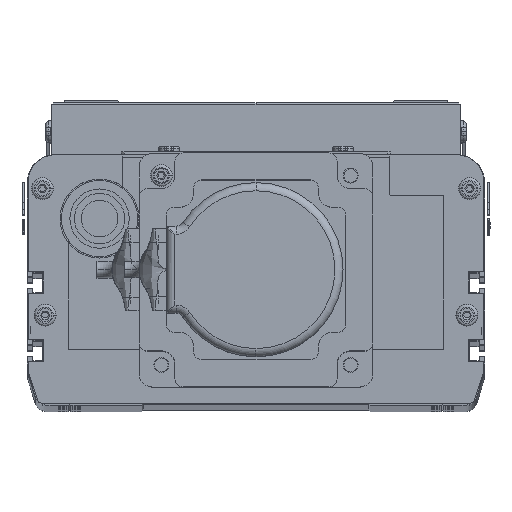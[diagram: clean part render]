
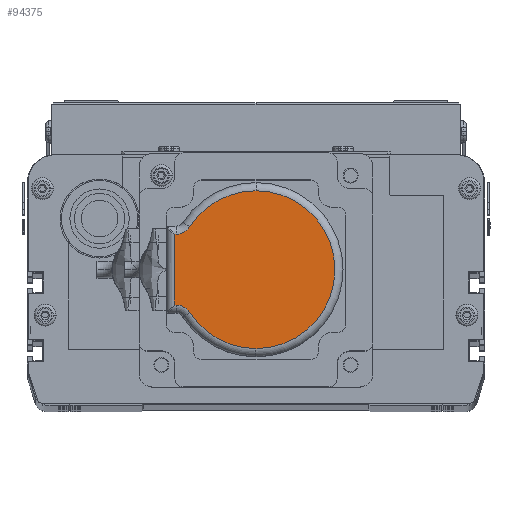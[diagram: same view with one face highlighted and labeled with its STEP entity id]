
A CAD part, top view. The second image highlights one B-rep face of the part: STEP entity #94375.
In plain terms, the highlighted planar face has unit normal (0, 0, 1).
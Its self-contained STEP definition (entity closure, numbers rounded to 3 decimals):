
#29240 = CARTESIAN_POINT ( 'NONE',  ( 48.743, 57.355, 26. ) ) ;
#29741 = CARTESIAN_POINT ( 'NONE',  ( 4., 33., 26. ) ) ;
#29904 = CIRCLE ( 'NONE', #30002, 6. ) ;
#29912 = CARTESIAN_POINT ( 'NONE',  ( 14., 62.394, 26. ) ) ;
#29993 = DIRECTION ( 'NONE',  ( 1., 0., 0. ) ) ;
#29994 = DIRECTION ( 'NONE',  ( 0., 0., 1. ) ) ;
#29996 = CARTESIAN_POINT ( 'NONE',  ( 20., 62.394, 26. ) ) ;
#30002 = AXIS2_PLACEMENT_3D ( 'NONE', #29912, #29994, #29993 ) ;
#30111 = DIRECTION ( 'NONE',  ( 0., 1., 0. ) ) ;
#30112 = CARTESIAN_POINT ( 'NONE',  ( 46., 33., 26. ) ) ;
#30113 = LINE ( 'NONE', #30112, #30127 ) ;
#30127 = VECTOR ( 'NONE', #30111, 1000. ) ;
#30183 = CARTESIAN_POINT ( 'NONE',  ( 62., 33., 26. ) ) ;
#30185 = CARTESIAN_POINT ( 'NONE',  ( 17.257, 57.355, 26. ) ) ;
#30463 = DIRECTION ( 'NONE',  ( 0., -1., 0. ) ) ;
#30464 = VECTOR ( 'NONE', #30463, 1000. ) ;
#30465 = CARTESIAN_POINT ( 'NONE',  ( 20., 33., 26. ) ) ;
#30466 = LINE ( 'NONE', #30465, #30464 ) ;
#30539 = DIRECTION ( 'NONE',  ( -1., 0., 0. ) ) ;
#30540 = VECTOR ( 'NONE', #30539, 1000. ) ;
#30573 = CARTESIAN_POINT ( 'NONE',  ( 17.5, 63., 26. ) ) ;
#30639 = LINE ( 'NONE', #30573, #30540 ) ;
#30717 = DIRECTION ( 'NONE',  ( 1., 0., 0. ) ) ;
#30718 = DIRECTION ( 'NONE',  ( 0., 0., 1. ) ) ;
#30724 = AXIS2_PLACEMENT_3D ( 'NONE', #30734, #30718, #30717 ) ;
#30730 = CIRCLE ( 'NONE', #30724, 29. ) ;
#30733 = CARTESIAN_POINT ( 'NONE',  ( 46., 63., 26. ) ) ;
#30734 = CARTESIAN_POINT ( 'NONE',  ( 33., 33., 26. ) ) ;
#30830 = AXIS2_PLACEMENT_3D ( 'NONE', #30921, #30920, #30919 ) ;
#30845 = CIRCLE ( 'NONE', #30917, 6. ) ;
#30870 = DIRECTION ( 'NONE',  ( 1., 0., 0. ) ) ;
#30871 = DIRECTION ( 'NONE',  ( 0., 0., 1. ) ) ;
#30872 = CARTESIAN_POINT ( 'NONE',  ( 33., 33., 26. ) ) ;
#30873 = AXIS2_PLACEMENT_3D ( 'NONE', #30872, #30871, #30870 ) ;
#30881 = DIRECTION ( 'NONE',  ( 1., 0., 0. ) ) ;
#30882 = DIRECTION ( 'NONE',  ( 0., 0., 1. ) ) ;
#30884 = CARTESIAN_POINT ( 'NONE',  ( 33., 33., 26. ) ) ;
#30885 = AXIS2_PLACEMENT_3D ( 'NONE', #30884, #30882, #30881 ) ;
#30888 = CARTESIAN_POINT ( 'NONE',  ( 20., 63., 26. ) ) ;
#30892 = PLANE ( 'NONE',  #30873 ) ;
#30909 = CIRCLE ( 'NONE', #30885, 29. ) ;
#30915 = DIRECTION ( 'NONE',  ( 1., 0., 0. ) ) ;
#30916 = DIRECTION ( 'NONE',  ( 0., 0., 1. ) ) ;
#30917 = AXIS2_PLACEMENT_3D ( 'NONE', #30924, #30916, #30915 ) ;
#30919 = DIRECTION ( 'NONE',  ( 1., 0., 0. ) ) ;
#30920 = DIRECTION ( 'NONE',  ( 0., 0., 1. ) ) ;
#30921 = CARTESIAN_POINT ( 'NONE',  ( 33., 33., 26. ) ) ;
#30922 = FACE_OUTER_BOUND ( 'NONE', #93910, .T. ) ;
#30924 = CARTESIAN_POINT ( 'NONE',  ( 52., 62.394, 26. ) ) ;
#30925 = CIRCLE ( 'NONE', #30830, 29. ) ;
#30926 = CARTESIAN_POINT ( 'NONE',  ( 46., 62.394, 26. ) ) ;
#93751 = ORIENTED_EDGE ( 'NONE', *, *, #94264, .T. ) ;
#93755 = VERTEX_POINT ( 'NONE', #29240 ) ;
#93762 = ORIENTED_EDGE ( 'NONE', *, *, #94242, .T. ) ;
#93765 = ORIENTED_EDGE ( 'NONE', *, *, #94363, .F. ) ;
#93899 = ORIENTED_EDGE ( 'NONE', *, *, #94241, .T. ) ;
#93906 = VERTEX_POINT ( 'NONE', #29741 ) ;
#93910 = EDGE_LOOP ( 'NONE', ( #94377, #93751, #94358, #94221, #93765, #93762, #94145, #93899 ) ) ;
#94145 = ORIENTED_EDGE ( 'NONE', *, *, #94244, .T. ) ;
#94146 = EDGE_CURVE ( 'NONE', #94162, #94147, #29904, .T. ) ;
#94147 = VERTEX_POINT ( 'NONE', #29996 ) ;
#94158 = VERTEX_POINT ( 'NONE', #30183 ) ;
#94162 = VERTEX_POINT ( 'NONE', #30185 ) ;
#94221 = ORIENTED_EDGE ( 'NONE', *, *, #94361, .T. ) ;
#94241 = EDGE_CURVE ( 'NONE', #94376, #94147, #30466, .T. ) ;
#94242 = EDGE_CURVE ( 'NONE', #94364, #94259, #30113, .T. ) ;
#94244 = EDGE_CURVE ( 'NONE', #94259, #94376, #30639, .T. ) ;
#94259 = VERTEX_POINT ( 'NONE', #30733 ) ;
#94264 = EDGE_CURVE ( 'NONE', #94162, #93906, #30730, .T. ) ;
#94358 = ORIENTED_EDGE ( 'NONE', *, *, #94373, .T. ) ;
#94361 = EDGE_CURVE ( 'NONE', #94158, #93755, #30925, .T. ) ;
#94363 = EDGE_CURVE ( 'NONE', #94364, #93755, #30845, .T. ) ;
#94364 = VERTEX_POINT ( 'NONE', #30926 ) ;
#94373 = EDGE_CURVE ( 'NONE', #93906, #94158, #30909, .T. ) ;
#94375 = ADVANCED_FACE ( 'NONE', ( #30922 ), #30892, .T. ) ;
#94376 = VERTEX_POINT ( 'NONE', #30888 ) ;
#94377 = ORIENTED_EDGE ( 'NONE', *, *, #94146, .F. ) ;
